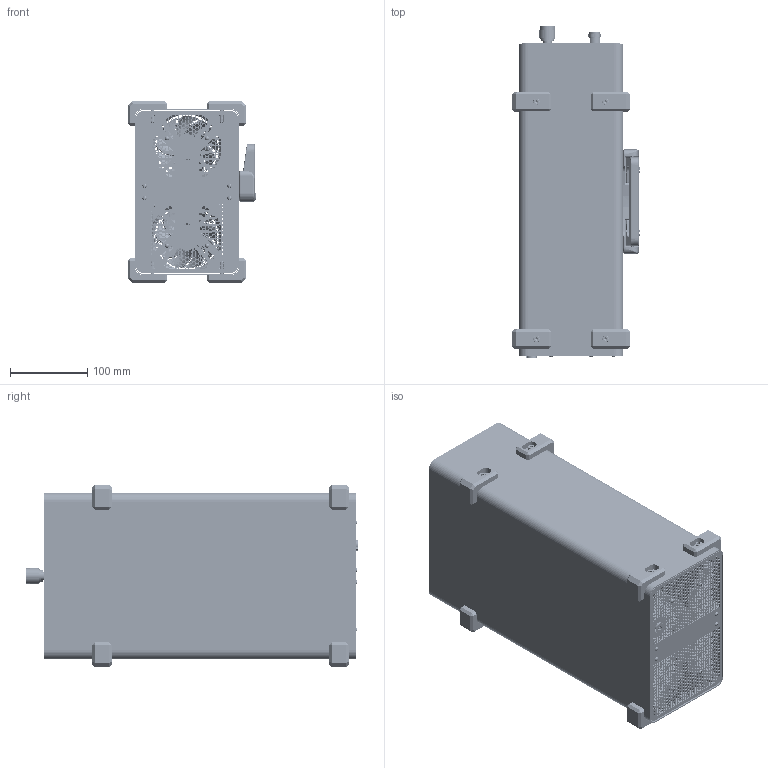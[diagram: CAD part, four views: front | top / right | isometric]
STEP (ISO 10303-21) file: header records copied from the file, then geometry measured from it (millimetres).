
FILE_DESCRIPTION(('STEP AP203'), '1');
FILE_NAME('ÏÐ1-25-2000-IIIMF', '', ('UNSPECIFIED'), ('UNSPECIFIED'), 'C3D Converter', 'C3D Toolkit', '');
FILE_SCHEMA(('CONFIG_CONTROL_DESIGN'));
Length unit declared in the file: millimetre
Products named in the file (25): -01; Вентилятор 92x92x25; Вентилятор_винт 92x92x25; Вентилятор_основа 92x92x25
Assembly tree (60 placements, depth 3):
  (unnamed)
    (unnamed)
    (unnamed)
    (unnamed)
    (unnamed)
    (unnamed)
    (unnamed)  x4
    -01  x4
    Вентилятор 92x92x25  x2
      Вентилятор_винт 92x92x25
      Вентилятор_основа 92x92x25
      (unnamed)
    (unnamed)
    (unnamed)  x16
    (unnamed)  x4
    -01  x4
    (unnamed)
      (unnamed)
      (unnamed)
      (unnamed)
    (unnamed)
    (unnamed)  x8
    (unnamed)  x2
    -01
    (unnamed)
Bounding box: 165.94 x 429.8 x 235 mm (x, y, z)
Volume: 5069565.3 mm3; surface area: 2221217.3 mm2
Topology: 60 solids, 60 shells, 8579 faces, 24986 edges, 16575 vertices
Faces by surface type: plane 7275, cylinder 837, torus 192, bspline 137, cone 113, extrusion 13, sphere 12
Full cylindrical faces by diameter (mm): 1.65 x1, 1.66 x1, 2.459 x14, 2.95 x1, 3 x28, 3.04 x2, 3.242 x4, 3.5 x19, 4.321 x8, 5 x8, 5.5 x32, 6 x3, 6.5 x8, 6.8 x8, 7 x7, 8.04 x1, 8.06 x1, 8.5 x8, 9 x1, 10 x1, 11.6 x2, 12 x1, 12.7 x1, 14 x2, 14.94 x1, 15.714 x2, 15.75 x1, 15.87 x1, 16 x4, 16.5 x1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
Entity records: 329450 total; most frequent: CARTESIAN_POINT 67169, ORIENTED_EDGE 43192, DIRECTION 37250, EDGE_CURVE 21596, VECTOR 19756, LINE 19743, VERTEX_POINT 14458, EDGE_LOOP 9740
